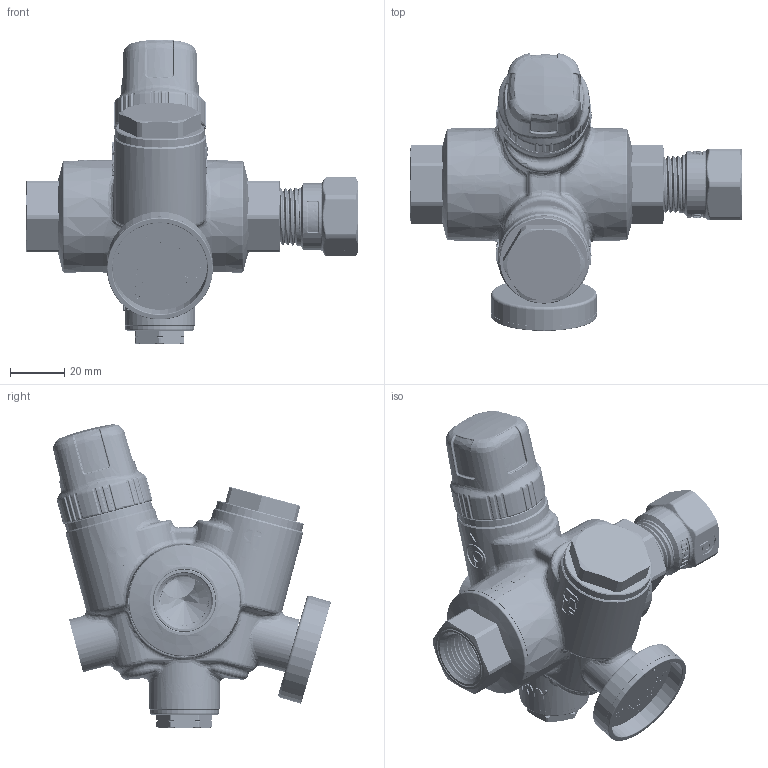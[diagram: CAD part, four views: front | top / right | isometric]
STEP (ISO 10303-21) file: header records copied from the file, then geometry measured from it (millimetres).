
FILE_DESCRIPTION(('Open CASCADE Model'),'2;1');
FILE_NAME('Open CASCADE Shape Model','2022-01-26T10:04:57',('Author'),( 'Open CASCADE'),'Open CASCADE STEP processor 7.3','Open CASCADE 7.3' ,'Unknown');
FILE_SCHEMA(('AUTOMOTIVE_DESIGN { 1 0 10303 214 1 1 1 1 }'));
Length unit declared in the file: millimetre
Products named in the file (25): Open CASCADE STEP translator 7.3 1; Open CASCADE STEP translator 7.3 1.1; Open CASCADE STEP translator 7.3 1.1.1; Open CASCADE STEP translator 7.3 1.1.2; Open CASCADE STEP translator 7.3 1.1.3; Open CASCADE STEP translator 7.3 1.2; Open CASCADE STEP translator 7.3 1.2.1; Open CASCADE STEP translator 7.3 1.2.2; Open CASCADE STEP translator 7.3 1.2.3; Open CASCADE STEP translator 7.3 1.2.4; Open CASCADE STEP translator 7.3 1.2.5; Open CASCADE STEP translator 7.3 1.2.6; Open CASCADE STEP translator 7.3 1.2.7; Open CASCADE STEP translator 7.3 1.2.8; Open CASCADE STEP translator 7.3 1.2.9; Open CASCADE STEP translator 7.3 1.2.10; Open CASCADE STEP translator 7.3 1.2.11; Open CASCADE STEP translator 7.3 1.2.12; Open CASCADE STEP translator 7.3 1.2.13; Open CASCADE STEP translator 7.3 1.2.14; Open CASCADE STEP translator 7.3 1.2.15; Open CASCADE STEP translator 7.3 1.2.16; Open CASCADE STEP translator 7.3 1.2.17; Open CASCADE STEP translator 7.3 1.2.18; Open CASCADE STEP translator 7.3 1.2.19
Assembly tree (24 placements, depth 3):
  Open CASCADE STEP translator 7.3 1
    Open CASCADE STEP translator 7.3 1.1
      Open CASCADE STEP translator 7.3 1.1.1
      Open CASCADE STEP translator 7.3 1.1.2
      Open CASCADE STEP translator 7.3 1.1.3
    Open CASCADE STEP translator 7.3 1.2
      Open CASCADE STEP translator 7.3 1.2.1
      Open CASCADE STEP translator 7.3 1.2.2
      Open CASCADE STEP translator 7.3 1.2.3
      Open CASCADE STEP translator 7.3 1.2.4
      Open CASCADE STEP translator 7.3 1.2.5
      Open CASCADE STEP translator 7.3 1.2.6
      Open CASCADE STEP translator 7.3 1.2.7
      Open CASCADE STEP translator 7.3 1.2.8
      Open CASCADE STEP translator 7.3 1.2.9
      Open CASCADE STEP translator 7.3 1.2.10
      Open CASCADE STEP translator 7.3 1.2.11
      Open CASCADE STEP translator 7.3 1.2.12
      Open CASCADE STEP translator 7.3 1.2.13
      Open CASCADE STEP translator 7.3 1.2.14
      Open CASCADE STEP translator 7.3 1.2.15
      Open CASCADE STEP translator 7.3 1.2.16
      Open CASCADE STEP translator 7.3 1.2.17
      Open CASCADE STEP translator 7.3 1.2.18
      Open CASCADE STEP translator 7.3 1.2.19
Bounding box: 122 x 102.01 x 111.79 mm (x, y, z)
Volume: 143349.4 mm3; surface area: 96945.7 mm2
Topology: 22 solids, 23 shells, 5290 faces, 13701 edges, 8649 vertices
Faces by surface type: extrusion 1407, plane 1250, cylinder 1053, bspline 651, cone 492, torus 319, sphere 66, revolution 52
Entity records: 590050 total; most frequent: CARTESIAN_POINT 350291, DIRECTION 32287, ORIENTED_EDGE 27362, PCURVE 27362, DEFINITIONAL_REPRESENTATION 27362, B_SPLINE_CURVE_WITH_KNOTS 20847, VECTOR 18395, LINE 16988
